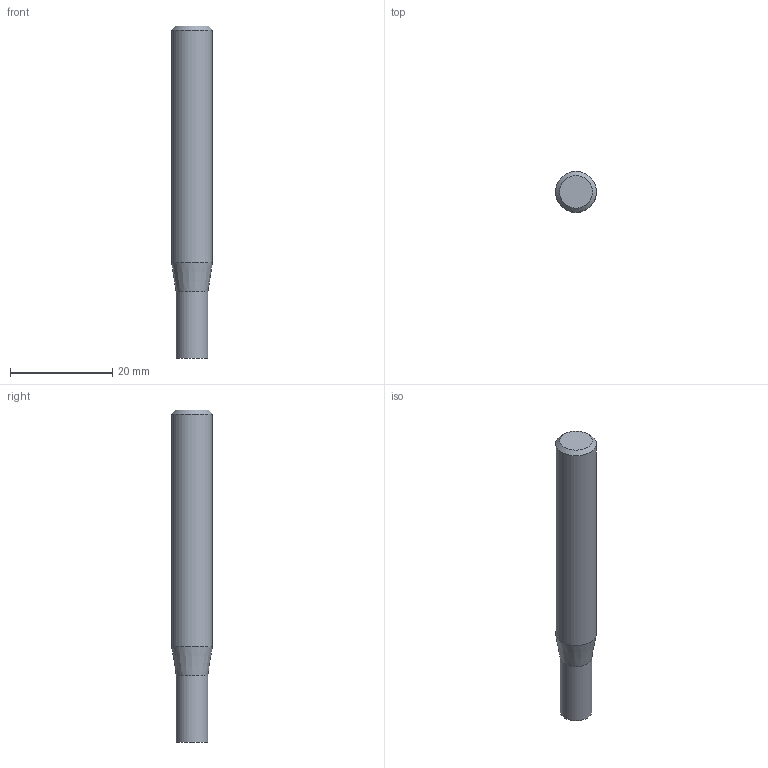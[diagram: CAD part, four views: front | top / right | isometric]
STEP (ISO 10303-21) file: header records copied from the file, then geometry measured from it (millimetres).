
FILE_DESCRIPTION((''),'2;1');
FILE_NAME('C:\Users\nsx150\AppData\Local\Temp\Mastercam 2021\98T1Q6BTT1\TEMP.step','2021-10-21T14:49:05',(''),(''),'STEP Write','Mastercam 2021 ... CNC Software, Inc.','');
FILE_SCHEMA(('AUTOMOTIVE_DESIGN'));
Length unit declared in the file: millimetre
Products named in the file (1): None
Bounding box: 8 x 8 x 65 mm (x, y, z)
Volume: 2939.3 mm3; surface area: 1673.9 mm2
Topology: 2 solids, 2 shells, 8 faces, 10 edges, 6 vertices
Faces by surface type: plane 4, cylinder 2, cone 2
Full cylindrical faces by diameter (mm): 6.2 x1, 8 x1
Entity records: 190 total; most frequent: DIRECTION 32, CARTESIAN_POINT 22, AXIS2_PLACEMENT_3D 16, ORIENTED_EDGE 12, EDGE_LOOP 12, STYLED_ITEM 11, ADVANCED_FACE 8, VERTEX_POINT 6
